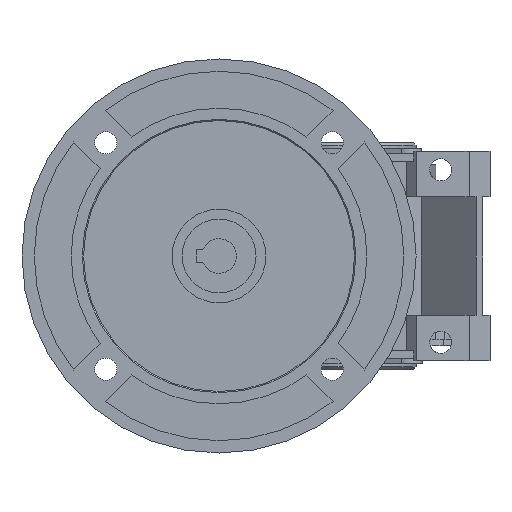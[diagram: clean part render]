
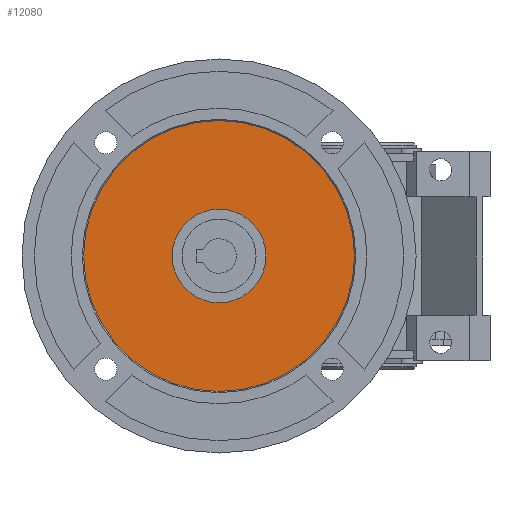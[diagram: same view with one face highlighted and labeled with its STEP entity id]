
A CAD part, left-side view. The second image highlights one B-rep face of the part: STEP entity #12080.
In plain terms, the highlighted planar face has unit normal (-1, 0, 0).
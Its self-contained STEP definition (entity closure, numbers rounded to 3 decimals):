
#139 = EDGE_CURVE ( 'NONE', #2486, #2486, #6564, .T. ) ;
#2486 = VERTEX_POINT ( 'NONE', #24694 ) ;
#4536 = AXIS2_PLACEMENT_3D ( 'NONE', #8900, #10001, #10271 ) ;
#6557 = EDGE_LOOP ( 'NONE', ( #11881 ) ) ;
#6564 = CIRCLE ( 'NONE', #4536, 19. ) ;
#6818 = DIRECTION ( 'NONE',  ( 0., 0., 1. ) ) ;
#8900 = CARTESIAN_POINT ( 'NONE',  ( -68., 50., 0. ) ) ;
#10001 = DIRECTION ( 'NONE',  ( 1., 0., 0. ) ) ;
#10076 = EDGE_CURVE ( 'NONE', #19339, #19339, #18212, .T. ) ;
#10271 = DIRECTION ( 'NONE',  ( 0., 0., 1. ) ) ;
#10945 = PLANE ( 'NONE',  #16178 ) ;
#11452 = AXIS2_PLACEMENT_3D ( 'NONE', #23973, #11614, #26069 ) ;
#11614 = DIRECTION ( 'NONE',  ( -1., 0., 0. ) ) ;
#11881 = ORIENTED_EDGE ( 'NONE', *, *, #10076, .T. ) ;
#12080 = ADVANCED_FACE ( 'NONE', ( #13915, #14574 ), #10945, .T. ) ;
#13915 = FACE_BOUND ( 'NONE', #15040, .T. ) ;
#14574 = FACE_OUTER_BOUND ( 'NONE', #6557, .T. ) ;
#15040 = EDGE_LOOP ( 'NONE', ( #19594 ) ) ;
#15121 = CARTESIAN_POINT ( 'NONE',  ( -68., 50., 0. ) ) ;
#16178 = AXIS2_PLACEMENT_3D ( 'NONE', #15121, #19262, #6818 ) ;
#18212 = CIRCLE ( 'NONE', #11452, 55. ) ;
#18745 = CARTESIAN_POINT ( 'NONE',  ( -68., 50., 55. ) ) ;
#19262 = DIRECTION ( 'NONE',  ( -1., 0., 0. ) ) ;
#19339 = VERTEX_POINT ( 'NONE', #18745 ) ;
#19594 = ORIENTED_EDGE ( 'NONE', *, *, #139, .T. ) ;
#23973 = CARTESIAN_POINT ( 'NONE',  ( -68., 50., 0. ) ) ;
#24694 = CARTESIAN_POINT ( 'NONE',  ( -68., 50., 19. ) ) ;
#26069 = DIRECTION ( 'NONE',  ( 0., 0., 1. ) ) ;
